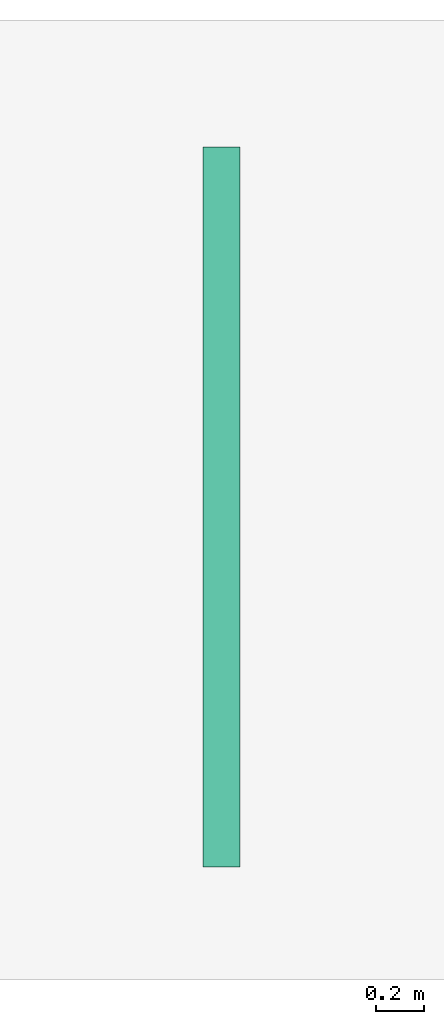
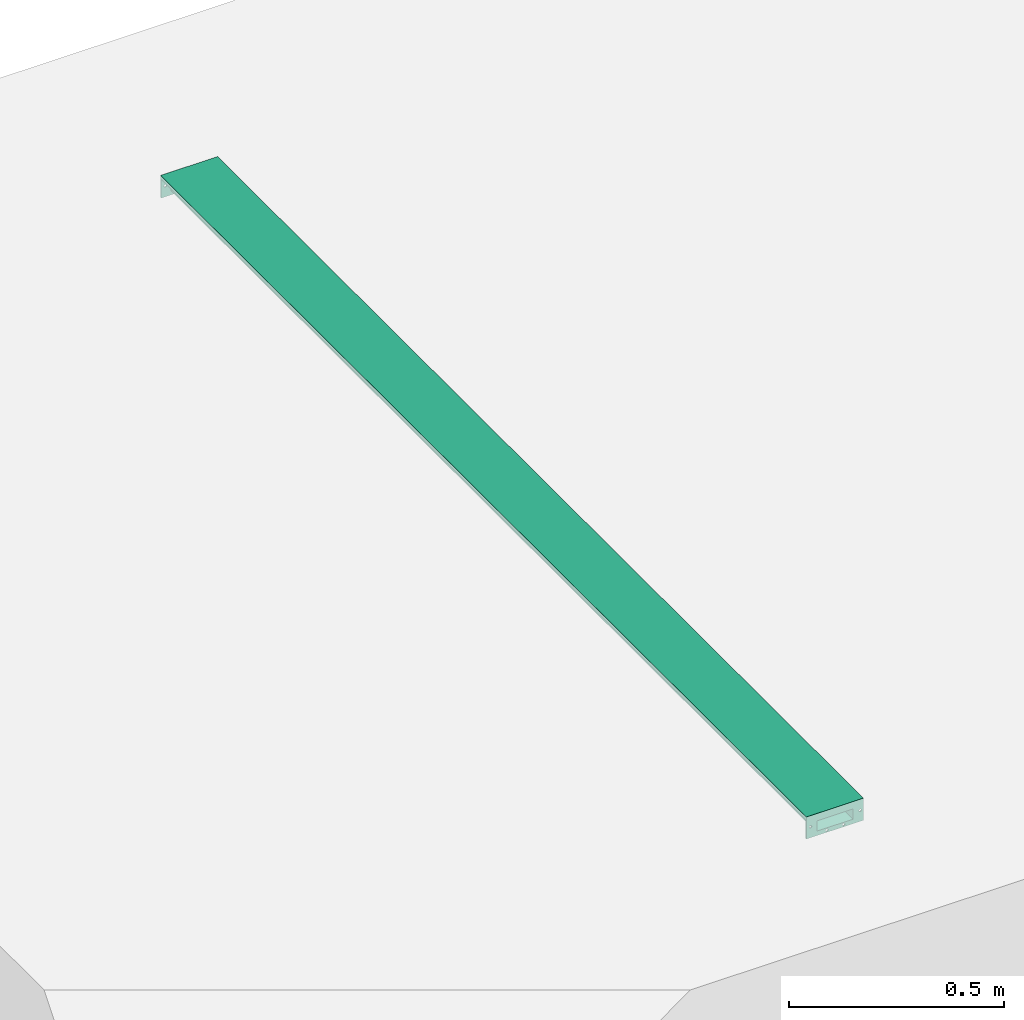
# One storey, part 2 of 2: 1 flow terminal.
"""IFC2X3 building model written with IfcOpenShell, lengths in millimetres."""

import ifcopenshell
import ifcopenshell.guid

model = None  # the IFC model being written
_history = None  # IfcOwnerHistory: only IFC2X3 demands one
_inside = {}  # id of a spatial element -> (the spatial element, [elements in it])
_under = {}  # id of a project, library or spatial element -> (it, [spatial elements below it])
_declared = {}  # id of a project -> (the project, [libraries it declares])
_typed = {}  # id of a type object -> (the type object, [elements of that type])
_made_of = {}  # id of a material, layer set ... -> (it, [elements and type objects made of it])


def new_model(schema):
    """Start an empty IFC model of exactly this schema.

    Asked for "IFC4X3", IfcOpenShell would pick the latest addendum, in which some entities
    have other attributes; the version numbers below select the first issue.
    IFC2X3 requires an IfcOwnerHistory on every rooted entity: one is made here for all.
    """
    global model, _history
    if schema == "IFC4X3":
        model = ifcopenshell.file(schema_version=(4, 3, 0, 0))
    else:
        model = ifcopenshell.file(schema=schema)
    _inside.clear()
    _under.clear()
    _declared.clear()
    _typed.clear()
    _made_of.clear()
    _history = None
    if model.schema == "IFC2X3":
        org = make("IfcOrganization", Name="unknown")
        user = make(
            "IfcPersonAndOrganization",
            ThePerson=make("IfcPerson", FamilyName="unknown"),
            TheOrganization=org,
        )
        app = make(
            "IfcApplication",
            ApplicationDeveloper=org,
            Version="unknown",
            ApplicationFullName="unknown",
            ApplicationIdentifier="unknown",
        )
        _history = make(
            "IfcOwnerHistory",
            OwningUser=user,
            OwningApplication=app,
            ChangeAction="ADDED",
            CreationDate=0,
        )
    return model


def make(cls, **values):
    """One entity of the class cls with the attributes given. An attribute that is None is left unset."""
    return model.create_entity(
        cls, **{name: value for name, value in values.items() if value is not None}
    )


def entity(cls, *values):
    """Any entity or typed value of the class cls, its attributes in the order of the schema. None: left unset."""
    e = model.create_entity(cls)
    for i, value in enumerate(values):
        if value is not None:
            e[i] = value
    return e


def rooted(cls, **values):
    """An entity with a GlobalId (a new one), such as an element, a storey or a relation."""
    return make(cls, GlobalId=ifcopenshell.guid.new(), OwnerHistory=_history, **values)


def si_unit(unit_type, name, prefix=None):
    """IfcSIUnit, for example si_unit("LENGTHUNIT", "METRE", prefix="MILLI")."""
    return make("IfcSIUnit", UnitType=unit_type, Prefix=prefix, Name=name)


def converted_unit(unit_type, name, factor, base, dimensions=None, offset=None):
    """IfcConversionBasedUnit, such as the inch: factor (a typed value) times the base unit."""
    return make(
        "IfcConversionBasedUnit"
        if offset is None
        else "IfcConversionBasedUnitWithOffset",
        ConversionOffset=offset,
        Dimensions=None
        if dimensions is None
        else entity("IfcDimensionalExponents", *dimensions),
        UnitType=unit_type,
        Name=name,
        ConversionFactor=make(
            "IfcMeasureWithUnit", ValueComponent=factor, UnitComponent=base
        ),
    )


def assignment(units):
    """IfcUnitAssignment: the units of a project."""
    return None if units is None else make("IfcUnitAssignment", Units=units)


def point(xyz):
    """IfcCartesianPoint."""
    return None if xyz is None else make("IfcCartesianPoint", Coordinates=xyz)


def direction(xyz):
    """IfcDirection."""
    return None if xyz is None else make("IfcDirection", DirectionRatios=xyz)


def frame(location, z_axis=None, x_axis=None):
    """IfcAxis2Placement3D, a coordinate frame: its origin and axes. An axis left out is left unset."""
    return make(
        "IfcAxis2Placement3D",
        Location=point(location),
        Axis=direction(z_axis),
        RefDirection=direction(x_axis),
    )


def frame_2d(location, x_axis=None):
    """IfcAxis2Placement2D, a coordinate frame in the plane: its origin and x axis."""
    return make(
        "IfcAxis2Placement2D", Location=point(location), RefDirection=direction(x_axis)
    )


def origin():
    """The frame at (0, 0, 0) with its axes left unset."""
    return frame((0.0, 0.0, 0.0))


def origin_2d_with_axis():
    """The frame at (0, 0) in the plane with the x axis (1, 0) written out."""
    return frame_2d((0.0, 0.0), x_axis=(1.0, 0.0))


def place(relative_to, where):
    """IfcLocalPlacement: puts the frame where relative to a parent placement (None: the world)."""
    return make(
        "IfcLocalPlacement", PlacementRelTo=relative_to, RelativePlacement=where
    )


def context(
    kind, dimensions, precision=None, world=None, true_north=None, identifier=None
):
    """IfcGeometricRepresentationContext, for example the 3D "Model" context."""
    return make(
        "IfcGeometricRepresentationContext",
        ContextIdentifier=identifier,
        ContextType=kind,
        CoordinateSpaceDimension=dimensions,
        Precision=precision,
        WorldCoordinateSystem=world,
        TrueNorth=true_north,
    )


def subcontext(parent, identifier, kind, view, scale=None):
    """IfcGeometricRepresentationSubContext, for example "Body" below "Model"."""
    return make(
        "IfcGeometricRepresentationSubContext",
        ContextIdentifier=identifier,
        ContextType=kind,
        ParentContext=parent,
        TargetScale=scale,
        TargetView=view,
    )


def project(units=None, contexts=None):
    """IfcProject with its units and contexts."""
    return rooted(
        "IfcProject",
        Name="project",
        RepresentationContexts=contexts,
        UnitsInContext=assignment(units),
    )


def spatial(cls, under=None, at=None, **own):
    """A site, building, storey or space (cls), placed at a placement, below another one or the project."""
    s = rooted(cls, ObjectPlacement=at, **own)
    if under is not None:
        _under.setdefault(under.id(), (under, []))[1].append(s)
    return s


def polyline(points):
    """IfcPolyline through the points."""
    return make("IfcPolyline", Points=[point(p) for p in points])


def circle_curve(where, radius):
    """IfcCircle in the frame where."""
    return make("IfcCircle", Position=where, Radius=radius)


def parameter(value):
    """IfcParameterValue: where a trimmed curve begins or ends, as a parameter of its basis curve."""
    return model.create_entity("IfcParameterValue", value)


def trimmed(basis, trim1, trim2, sense, master):
    """IfcTrimmedCurve: the piece of a basis curve between two trims."""
    return make(
        "IfcTrimmedCurve",
        BasisCurve=basis,
        Trim1=trim1,
        Trim2=trim2,
        SenseAgreement=sense,
        MasterRepresentation=master,
    )


def segment(curve, same_sense, transition):
    """IfcCompositeCurveSegment."""
    return make(
        "IfcCompositeCurveSegment",
        Transition=transition,
        SameSense=same_sense,
        ParentCurve=curve,
    )


def composite_curve(segments, self_intersect=None):
    """IfcCompositeCurve: segments joined end to end."""
    return make("IfcCompositeCurve", Segments=segments, SelfIntersect=self_intersect)


def profile(cls, at=None, kind="AREA", **sizes):
    """A parametric profile (cls). Its sizes go by their IFC names, for example OverallWidth=200.0."""
    return make(cls, ProfileType=kind, Position=at, **sizes)


def rectangle(**sizes):
    """IfcRectangleProfileDef."""
    return profile("IfcRectangleProfileDef", **sizes)


def outline(outer, holes=None, kind="AREA"):
    """IfcArbitraryClosedProfileDef: a profile drawn as a closed curve; with holes, ...WithVoids."""
    if holes is None:
        return make("IfcArbitraryClosedProfileDef", ProfileType=kind, OuterCurve=outer)
    return make(
        "IfcArbitraryProfileDefWithVoids",
        ProfileType=kind,
        OuterCurve=outer,
        InnerCurves=holes,
    )


def extrude(swept, where, along, depth):
    """IfcExtrudedAreaSolid: the profile swept, set in the frame where, extruded along a direction by depth."""
    return make(
        "IfcExtrudedAreaSolid",
        SweptArea=swept,
        Position=where,
        ExtrudedDirection=direction(along),
        Depth=depth,
    )


def shape(context_of_items, identifier, shape_type, items):
    """IfcShapeRepresentation: the items that make up one representation, for example the "Body"."""
    return make(
        "IfcShapeRepresentation",
        ContextOfItems=context_of_items,
        RepresentationIdentifier=identifier,
        RepresentationType=shape_type,
        Items=items,
    )


def source(mapping_origin, context_of_items, identifier, shape_type, items):
    """IfcRepresentationMap: a shape defined once, which mapped items show again and again."""
    return make(
        "IfcRepresentationMap",
        MappingOrigin=mapping_origin,
        MappedRepresentation=shape(context_of_items, identifier, shape_type, items),
    )


def transform(
    local_origin,
    x_axis=None,
    y_axis=None,
    z_axis=None,
    scale=None,
    scale2=None,
    scale3=None,
    uniform=True,
):
    """IfcCartesianTransformationOperator3D, or its non-uniform kind. x_axis, y_axis, z_axis: its Axis1, 2, 3."""
    if uniform:
        return make(
            "IfcCartesianTransformationOperator3D",
            Axis1=direction(x_axis),
            Axis2=direction(y_axis),
            LocalOrigin=point(local_origin),
            Scale=scale,
            Axis3=direction(z_axis),
        )
    return make(
        "IfcCartesianTransformationOperator3DnonUniform",
        Axis1=direction(x_axis),
        Axis2=direction(y_axis),
        LocalOrigin=point(local_origin),
        Scale=scale,
        Axis3=direction(z_axis),
        Scale2=scale2,
        Scale3=scale3,
    )


def mapped(mapping_source, mapping_target):
    """IfcMappedItem: shows the shape of a source again, moved by a transform."""
    return make(
        "IfcMappedItem", MappingSource=mapping_source, MappingTarget=mapping_target
    )


def material(Name=None, Category=None):
    """IfcMaterial."""
    return make("IfcMaterial", Name=Name, Category=Category)


def material_list(materials):
    """IfcMaterialList."""
    return make("IfcMaterialList", Materials=materials)


def made_of(thing, what):
    """Note that an element or type object is made of a material, layer set ...; save() writes the relation."""
    if what is not None:
        _made_of.setdefault(what.id(), (what, []))[1].append(thing)
    return thing


def element(
    cls,
    number,
    at=None,
    inside=None,
    cuts=None,
    type_object=None,
    material=None,
    context=None,
    identifier="Body",
    shape_type=None,
    held_by="IfcProductDefinitionShape",
    body=None,
    shapes=None,
    **own,
):
    """One element of the class cls, such as IfcWall. Its Tag is "e" and its number.

    at: its placement. inside: the storey or other place that contains it. cuts: it is an
    opening in that element (IfcRelVoidsElement). A single representation is given by context,
    identifier, shape_type and body (its items); several are given by shapes. held_by: the class
    of the entity that holds the representations. save() writes the other relations.
    """
    e = rooted(cls, Tag="e%d" % number, ObjectPlacement=at, **own)
    if body is not None:
        shapes = [shape(context, identifier, shape_type, body)]
    if shapes is not None:
        e.Representation = make(held_by, Representations=shapes)
    if inside is not None:
        _inside.setdefault(inside.id(), (inside, []))[1].append(e)
    if cuts is not None:
        rooted(
            "IfcRelVoidsElement", RelatingBuildingElement=cuts, RelatedOpeningElement=e
        )
    if type_object is not None:
        _typed.setdefault(type_object.id(), (type_object, []))[1].append(e)
    return made_of(e, material)


def aggregate(whole, parts):
    """IfcRelAggregates: a whole, such as a stair, and the parts it consists of."""
    return rooted("IfcRelAggregates", RelatingObject=whole, RelatedObjects=parts)


def save(model, path):
    """Write the relations noted so far, then the file.

    IfcRelAggregates (storeys below a building ...), IfcRelContainedInSpatialStructure (elements
    in a storey), IfcRelDefinesByType, IfcRelAssociatesMaterial and IfcRelDeclares: one each for
    every whole, place, type object, material and project.
    """
    for whole, parts in _under.values():
        aggregate(whole, parts)
    for where, things in _inside.values():
        rooted(
            "IfcRelContainedInSpatialStructure",
            RelatedElements=things,
            RelatingStructure=where,
        )
    for kind, things in _typed.values():
        rooted("IfcRelDefinesByType", RelatedObjects=things, RelatingType=kind)
    for what, things in _made_of.values():
        rooted("IfcRelAssociatesMaterial", RelatedObjects=things, RelatingMaterial=what)
    for by, libraries in _declared.values():
        rooted("IfcRelDeclares", RelatingContext=by, RelatedDefinitions=libraries)
    model.write(path)


model = new_model("IFC2X3")

# Units and contexts
model_context = context("Model", 3, precision=1e-06, world=origin(), true_north=direction((2.0, 6.12303176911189e-17, 1.0)))
context_of_model = context(None, 3, precision=1e-06, world=origin(), true_north=direction((2.0, 6.12303176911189e-17, 1.0)))
body_context = subcontext(model_context, "Body", "Model", "MODEL_VIEW")
ifc_project = project(units=[si_unit("LENGTHUNIT", "METRE", prefix="MILLI"), si_unit("AREAUNIT", "SQUARE_METRE", prefix="MILLI"), si_unit("VOLUMEUNIT", "CUBIC_METRE", prefix="MILLI"), converted_unit("PLANEANGLEUNIT", "DEGREE", entity("IfcRatioMeasure", 0.0174532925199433), si_unit("PLANEANGLEUNIT", "RADIAN"), dimensions=[0, 0, 0, 0, 0, 0, 0]), si_unit("TIMEUNIT", "SECOND")], contexts=[model_context, context_of_model])

# Site, building, storey
site_placement = place(None, origin())
site = spatial("IfcSite", under=ifc_project, at=site_placement, Name="Default", CompositionType="ELEMENT")
building_placement = place(site_placement, origin())
building = spatial("IfcBuilding", under=site, at=building_placement, CompositionType="ELEMENT")
storey_placement = place(building_placement, origin())
storey = spatial("IfcBuildingStorey", under=building, at=storey_placement, Name="Level 1", CompositionType="ELEMENT", Elevation=0.0)

# Flow terminal
ifc_material_1 = material(Name="Stainless Steel AISI 304")
ifc_material_2 = material(Name="Polystyrene, High Impact (F)")
ifc_material_list = material_list([ifc_material_1, ifc_material_2])
shared_shape = source(origin(), body_context, "Body", "SweptSolid", [
    extrude(rectangle(XDim=3000.0, YDim=124.999917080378, at=origin_2d_with_axis()), frame((4.14598109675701e-05, 1500.0, -21.0), z_axis=(0.0, 0.0, 1.0), x_axis=(0.0, 1.0, 0.0)), (0.0, 0.0, 1.0), 20.9999999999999),
    extrude(outline(polyline([(-76.5000276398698, -25.8000000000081), (-62.4999447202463, -25.8000000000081), (-62.4999447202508, -4.80000000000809), (-48.4999447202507, -4.80000000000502), (-48.499944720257, 24.199999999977), (48.499972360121, 24.199999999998), (48.4999723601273, -4.7999999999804), (62.4999723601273, -4.7999999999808), (62.4999723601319, -25.7999999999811), (76.4999723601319, -25.7999999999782), (76.4999723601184, 37.0), (-76.5000276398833, 37.0), (-76.5000276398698, -25.8000000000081)]), holes=[composite_curve([segment(trimmed(circle_curve(frame_2d((67.7349848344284, 6.09857254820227), x_axis=(1.0, 0.0)), 3.5), [parameter(0.0)], [parameter(180.0)], True, "PARAMETER"), False, "CONTINUOUS"), segment(trimmed(circle_curve(frame_2d((67.7349848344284, 6.09857254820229), x_axis=(1.0, 0.0)), 3.5), [parameter(180.0)], [parameter(0.0)], True, "PARAMETER"), False, "CONTINUOUS")], self_intersect=False), composite_curve([segment(trimmed(circle_curve(frame_2d((23.7349848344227, 30.9218749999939), x_axis=(1.0, 0.0)), 3.5), [parameter(0.0)], [parameter(180.0)], True, "PARAMETER"), False, "CONTINUOUS"), segment(trimmed(circle_curve(frame_2d((23.7349848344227, 30.9218749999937), x_axis=(1.0, 0.0)), 3.5), [parameter(180.0)], [parameter(0.0)], True, "PARAMETER"), False, "CONTINUOUS")], self_intersect=False), composite_curve([segment(trimmed(circle_curve(frame_2d((-21.2650151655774, 30.921874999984), x_axis=(1.0, 0.0)), 3.5), [parameter(180.0)], [parameter(1.52666624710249e-13)], True, "PARAMETER"), False, "CONTINUOUS"), segment(trimmed(circle_curve(frame_2d((-21.2650151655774, 30.9218749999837), x_axis=(1.0, 0.0)), 3.5), [parameter(360.0)], [parameter(180.0)], True, "PARAMETER"), False, "CONTINUOUS")], self_intersect=False), composite_curve([segment(trimmed(circle_curve(frame_2d((-65.2650151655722, 6.09857254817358), x_axis=(1.0, 0.0)), 3.5), [parameter(180.0)], [parameter(0.0)], True, "PARAMETER"), False, "CONTINUOUS"), segment(trimmed(circle_curve(frame_2d((-65.2650151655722, 6.09857254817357), x_axis=(1.0, 0.0)), 3.5), [parameter(0.0)], [parameter(180.0)], True, "PARAMETER"), False, "CONTINUOUS")], self_intersect=False)]), frame((2.7639875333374e-05, 2997.0, -25.8000000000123), z_axis=(0.0, 1.0, 0.0), x_axis=(1.0, 0.0, 0.0)), (0.0, 0.0, 1.0), 2.99999999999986),
    extrude(outline(polyline([(-76.4999585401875, -25.8000013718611), (-62.4999585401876, -25.8000013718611), (-62.4999585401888, -4.80000137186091), (-48.4999585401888, -4.8000013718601), (-48.4999585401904, 24.19999862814), (48.4999585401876, 24.1999986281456), (48.4999585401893, -4.80000137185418), (62.4999585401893, -4.80000137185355), (62.4999585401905, -25.8000013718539), (76.4999585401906, -25.8000013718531), (76.499958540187, 37.0000068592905), (-76.4999585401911, 37.0000068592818), (-76.4999585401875, -25.8000013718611)]), holes=[composite_curve([segment(trimmed(circle_curve(frame_2d((67.7349710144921, 6.09857117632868), x_axis=(1.0, 0.0)), 3.5), [parameter(0.0)], [parameter(180.0)], True, "PARAMETER"), False, "CONTINUOUS"), segment(trimmed(circle_curve(frame_2d((67.7349710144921, 6.0985711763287), x_axis=(1.0, 0.0)), 3.5), [parameter(180.0)], [parameter(360.0)], True, "PARAMETER"), False, "CONTINUOUS")], self_intersect=False), composite_curve([segment(trimmed(circle_curve(frame_2d((23.7349710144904, 30.9218818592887), x_axis=(1.0, 0.0)), 3.5), [parameter(0.0)], [parameter(180.0)], True, "PARAMETER"), False, "CONTINUOUS"), segment(trimmed(circle_curve(frame_2d((23.7349710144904, 30.9218818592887), x_axis=(1.0, 0.0)), 3.5), [parameter(180.0)], [parameter(360.0)], True, "PARAMETER"), False, "CONTINUOUS")], self_intersect=False), composite_curve([segment(trimmed(circle_curve(frame_2d((-21.2650289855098, 30.9218818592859), x_axis=(1.0, 0.0)), 3.5), [parameter(180.0)], [parameter(0.0)], True, "PARAMETER"), False, "CONTINUOUS"), segment(trimmed(circle_curve(frame_2d((-21.2650289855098, 30.9218818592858), x_axis=(1.0, 0.0)), 3.5), [parameter(360.0)], [parameter(180.0)], True, "PARAMETER"), False, "CONTINUOUS")], self_intersect=False), composite_curve([segment(trimmed(circle_curve(frame_2d((-65.2650289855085, 6.09857117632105), x_axis=(1.0, 0.0)), 3.5), [parameter(180.0)], [parameter(360.0)], True, "PARAMETER"), False, "CONTINUOUS"), segment(trimmed(circle_curve(frame_2d((-65.2650289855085, 6.09857117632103), x_axis=(1.0, 0.0)), 3.5), [parameter(0.0)], [parameter(180.0)], True, "PARAMETER"), False, "CONTINUOUS")], self_intersect=False)]), frame((4.14598109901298e-05, 0.0, -25.8000013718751), z_axis=(0.0, 1.0, 0.0), x_axis=(1.0, 0.0, 0.0)), (0.0, 0.0, 1.0), 3.0),
    extrude(outline(polyline([(-17.6243423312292, -62.4999585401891), (-17.6243423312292, -76.499958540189), (-7.62434233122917, -76.499958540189), (-7.62434233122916, -74.999958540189), (-16.1243423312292, -74.999958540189), (-16.1243423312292, -63.9999585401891), (4.87565766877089, -63.9999585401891), (4.87565766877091, -49.999958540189), (33.8717116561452, -49.999958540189), (33.8717116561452, 49.999958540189), (4.87565766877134, 49.999958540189), (4.87565766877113, 63.999958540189), (-16.124342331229, 63.9999585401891), (-16.1243423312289, 74.9999585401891), (-7.62434233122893, 74.9999585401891), (-7.62434233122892, 76.4999585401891), (-17.6243423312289, 76.4999585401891), (-17.624342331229, 62.4999585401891), (3.37565766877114, 62.499958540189), (3.37565766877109, 48.499958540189), (32.3717116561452, 48.499958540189), (32.3717116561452, -48.499958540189), (3.37565766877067, -48.499958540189), (3.37565766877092, -62.4999585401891), (-17.6243423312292, -62.4999585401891)])), frame((4.14598110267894e-05, 3.0, -17.6282883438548), z_axis=(0.0, -1.0, 0.0), x_axis=(0.0, 0.0, -1.0)), (0.0, 0.0, -1.0), 2994.0),
    extrude(rectangle(XDim=2997.0, YDim=11.0, at=frame_2d((2.27373675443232e-13, 0.0), x_axis=(1.0, 0.0))), frame((69.5000000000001, 1501.5, -10.0), z_axis=(0.0, 0.0, 1.0), x_axis=(0.0, 1.0, 0.0)), (0.0, 0.0, 1.0), 8.50000000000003),
    extrude(rectangle(XDim=2997.0, YDim=10.9999999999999, at=frame_2d((2.27373675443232e-13, 0.0), x_axis=(1.0, 0.0))), frame((-69.499917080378, 1501.5, -10.0), z_axis=(0.0, 0.0, 1.0), x_axis=(0.0, 1.0, 0.0)), (0.0, 0.0, 1.0), 8.50000000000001),
])
flow_terminal_placement = place(storey_placement, frame((-82.2883701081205, -1527.95050146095, 0.0)))
element("IfcFlowTerminal", 1, at=flow_terminal_placement, inside=storey, material=ifc_material_list, Name="ACO BD Modular 125 Level Invert Straight Channels:105143 - Straight Channel - 3000mm LG - Invert Depth 50mm:105143 - Straight Channel - 3000mm LG - Invert Depth 50mm", ObjectType="105143 - Straight Channel - 3000mm LG - Invert Depth 50mm", context=body_context, shape_type="MappedRepresentation", body=[
    mapped(shared_shape, transform((0.0, 0.0, 0.0), scale=1.0)),
])

save(model, "model.ifc")
